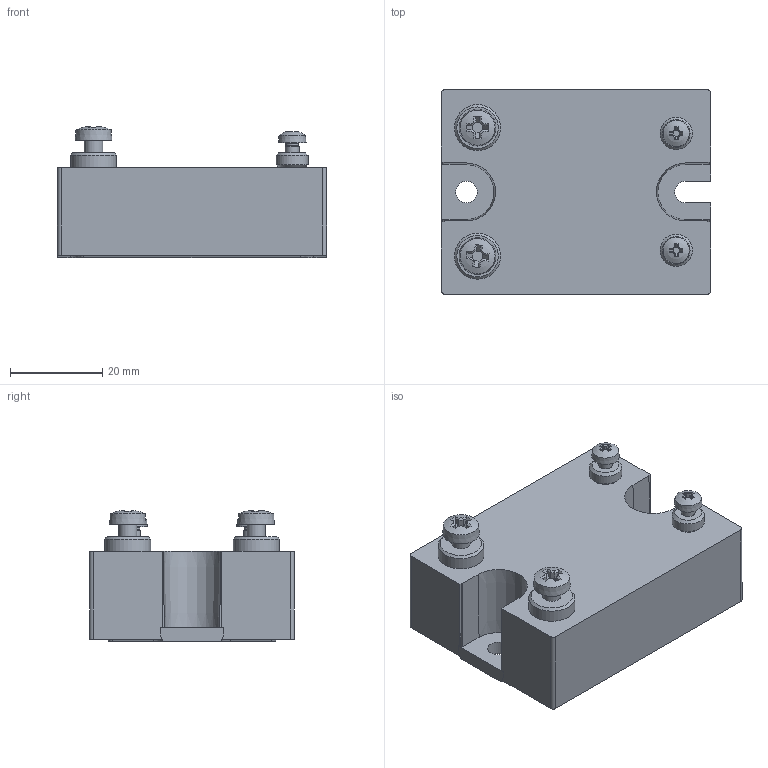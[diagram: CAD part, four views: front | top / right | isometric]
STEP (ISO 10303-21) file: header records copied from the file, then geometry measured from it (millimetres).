
FILE_DESCRIPTION((''),'2;1');
FILE_NAME('C:\Vault_local\Designs\Stock\3D pour clients\préparations\2D3D 500\2D3D 560 A.stp','2009-12-23T09:02:56',('Georges THOLLOT ','Responsible for','Methods and Industrialization',' Tl : +33 (0)4 77 53 90 27','gthollot@celduc.com'),('Celduc r e l a i s','5, rue Ampre, BP 30004','42290 SORBIERS - France','Fax. : +33 (0)4 77 53 85 51','N siret 353 310 519 00015','ISO 9001 N QUAL/1993/1106b','www.celduc.com'),'Autodesk Inventor 2010','Autodesk Inventor 2010','');
FILE_SCHEMA(('AUTOMOTIVE_DESIGN { 1 0 10303 214 1 1 1 1 }'));
Length unit declared in the file: millimetre
Products named in the file (1): SC plots M3 M4
Bounding box: 58.56 x 44.5 x 28.52 mm (x, y, z)
Volume: 47458.9 mm3; surface area: 10658.4 mm2
Topology: 1 solids, 1 shells, 211 faces, 579 edges, 382 vertices
Faces by surface type: plane 117, cone 69, cylinder 12, bspline 9, sphere 4
Full cylindrical faces by diameter (mm): 2.75 x2, 3 x2, 4 x2, 4.7 x1, 7 x2, 10 x2
Entity records: 6903 total; most frequent: CARTESIAN_POINT 1499, ORIENTED_EDGE 1084, DIRECTION 1064, EDGE_CURVE 542, AXIS2_PLACEMENT_3D 399, VERTEX_POINT 374, VECTOR 266, LINE 266
